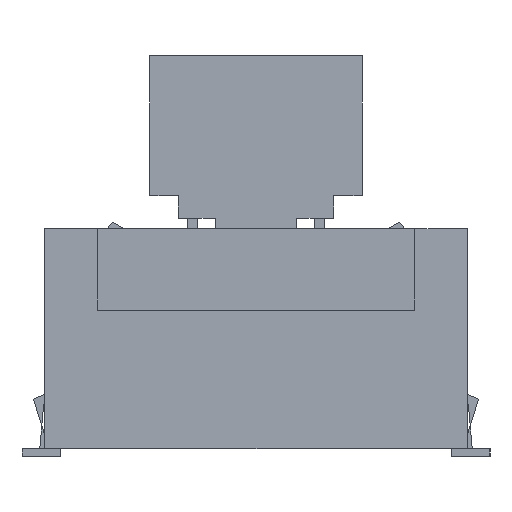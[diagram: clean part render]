
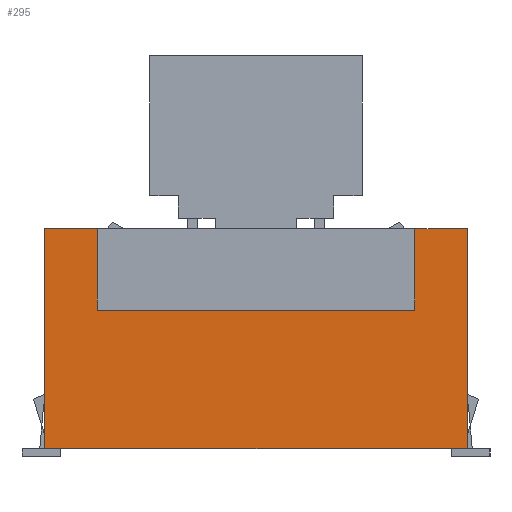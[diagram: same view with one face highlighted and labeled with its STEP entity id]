
A CAD part, left-side view. The second image highlights one B-rep face of the part: STEP entity #295.
In plain terms, the highlighted planar face has unit normal (-1, 0, 0).
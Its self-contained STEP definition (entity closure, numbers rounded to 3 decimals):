
#179 = EDGE_CURVE('',#180,#182,#184,.T.);
#180 = VERTEX_POINT('',#181);
#181 = CARTESIAN_POINT('',(-4.815,-1.66,0.06));
#182 = VERTEX_POINT('',#183);
#183 = CARTESIAN_POINT('',(-4.815,-1.66,1.79));
#184 = SURFACE_CURVE('',#185,(#189,#201),.PCURVE_S1.);
#185 = LINE('',#186,#187);
#186 = CARTESIAN_POINT('',(-4.815,-1.66,0.06));
#187 = VECTOR('',#188,1.);
#188 = DIRECTION('',(0.,0.,1.));
#189 = PCURVE('',#190,#195);
#190 = PLANE('',#191);
#191 = AXIS2_PLACEMENT_3D('',#192,#193,#194);
#192 = CARTESIAN_POINT('',(-4.815,-1.66,0.06));
#193 = DIRECTION('',(0.,1.,0.));
#194 = DIRECTION('',(1.,0.,0.));
#195 = DEFINITIONAL_REPRESENTATION('',(#196),#200);
#196 = LINE('',#197,#198);
#197 = CARTESIAN_POINT('',(0.,0.));
#198 = VECTOR('',#199,1.);
#199 = DIRECTION('',(0.,-1.));
#200 = ( GEOMETRIC_REPRESENTATION_CONTEXT(2) 
PARAMETRIC_REPRESENTATION_CONTEXT() REPRESENTATION_CONTEXT('2D SPACE',''
  ) );
#201 = PCURVE('',#202,#207);
#202 = PLANE('',#203);
#203 = AXIS2_PLACEMENT_3D('',#204,#205,#206);
#204 = CARTESIAN_POINT('',(-4.815,1.66,0.06));
#205 = DIRECTION('',(1.,0.,-0.));
#206 = DIRECTION('',(0.,-1.,0.));
#207 = DEFINITIONAL_REPRESENTATION('',(#208),#212);
#208 = LINE('',#209,#210);
#209 = CARTESIAN_POINT('',(3.32,0.));
#210 = VECTOR('',#211,1.);
#211 = DIRECTION('',(0.,-1.));
#212 = ( GEOMETRIC_REPRESENTATION_CONTEXT(2) 
PARAMETRIC_REPRESENTATION_CONTEXT() REPRESENTATION_CONTEXT('2D SPACE',''
  ) );
#230 = PLANE('',#231);
#231 = AXIS2_PLACEMENT_3D('',#232,#233,#234);
#232 = CARTESIAN_POINT('',(0.,0.,1.79)
  );
#233 = DIRECTION('',(0.,0.,1.));
#234 = DIRECTION('',(1.,0.,-0.));
#284 = PLANE('',#285);
#285 = AXIS2_PLACEMENT_3D('',#286,#287,#288);
#286 = CARTESIAN_POINT('',(0.,0.,0.06
    ));
#287 = DIRECTION('',(0.,0.,1.));
#288 = DIRECTION('',(1.,0.,-0.));
#295 = ADVANCED_FACE('',(#296),#202,.F.);
#296 = FACE_BOUND('',#297,.F.);
#297 = EDGE_LOOP('',(#298,#321,#349,#372,#400,#428,#456,#477));
#298 = ORIENTED_EDGE('',*,*,#299,.F.);
#299 = EDGE_CURVE('',#300,#180,#302,.T.);
#300 = VERTEX_POINT('',#301);
#301 = CARTESIAN_POINT('',(-4.815,1.66,0.06));
#302 = SURFACE_CURVE('',#303,(#307,#314),.PCURVE_S1.);
#303 = LINE('',#304,#305);
#304 = CARTESIAN_POINT('',(-4.815,1.66,0.06));
#305 = VECTOR('',#306,1.);
#306 = DIRECTION('',(0.,-1.,0.));
#307 = PCURVE('',#202,#308);
#308 = DEFINITIONAL_REPRESENTATION('',(#309),#313);
#309 = LINE('',#310,#311);
#310 = CARTESIAN_POINT('',(0.,0.));
#311 = VECTOR('',#312,1.);
#312 = DIRECTION('',(1.,0.));
#313 = ( GEOMETRIC_REPRESENTATION_CONTEXT(2) 
PARAMETRIC_REPRESENTATION_CONTEXT() REPRESENTATION_CONTEXT('2D SPACE',''
  ) );
#314 = PCURVE('',#284,#315);
#315 = DEFINITIONAL_REPRESENTATION('',(#316),#320);
#316 = LINE('',#317,#318);
#317 = CARTESIAN_POINT('',(-4.815,1.66));
#318 = VECTOR('',#319,1.);
#319 = DIRECTION('',(0.,-1.));
#320 = ( GEOMETRIC_REPRESENTATION_CONTEXT(2) 
PARAMETRIC_REPRESENTATION_CONTEXT() REPRESENTATION_CONTEXT('2D SPACE',''
  ) );
#321 = ORIENTED_EDGE('',*,*,#322,.T.);
#322 = EDGE_CURVE('',#300,#323,#325,.T.);
#323 = VERTEX_POINT('',#324);
#324 = CARTESIAN_POINT('',(-4.815,1.66,1.79));
#325 = SURFACE_CURVE('',#326,(#330,#337),.PCURVE_S1.);
#326 = LINE('',#327,#328);
#327 = CARTESIAN_POINT('',(-4.815,1.66,0.06));
#328 = VECTOR('',#329,1.);
#329 = DIRECTION('',(0.,0.,1.));
#330 = PCURVE('',#202,#331);
#331 = DEFINITIONAL_REPRESENTATION('',(#332),#336);
#332 = LINE('',#333,#334);
#333 = CARTESIAN_POINT('',(0.,0.));
#334 = VECTOR('',#335,1.);
#335 = DIRECTION('',(0.,-1.));
#336 = ( GEOMETRIC_REPRESENTATION_CONTEXT(2) 
PARAMETRIC_REPRESENTATION_CONTEXT() REPRESENTATION_CONTEXT('2D SPACE',''
  ) );
#337 = PCURVE('',#338,#343);
#338 = PLANE('',#339);
#339 = AXIS2_PLACEMENT_3D('',#340,#341,#342);
#340 = CARTESIAN_POINT('',(4.815,1.66,0.06));
#341 = DIRECTION('',(0.,-1.,0.));
#342 = DIRECTION('',(-1.,0.,0.));
#343 = DEFINITIONAL_REPRESENTATION('',(#344),#348);
#344 = LINE('',#345,#346);
#345 = CARTESIAN_POINT('',(9.63,0.));
#346 = VECTOR('',#347,1.);
#347 = DIRECTION('',(0.,-1.));
#348 = ( GEOMETRIC_REPRESENTATION_CONTEXT(2) 
PARAMETRIC_REPRESENTATION_CONTEXT() REPRESENTATION_CONTEXT('2D SPACE',''
  ) );
#349 = ORIENTED_EDGE('',*,*,#350,.T.);
#350 = EDGE_CURVE('',#323,#351,#353,.T.);
#351 = VERTEX_POINT('',#352);
#352 = CARTESIAN_POINT('',(-4.815,1.25,1.79));
#353 = SURFACE_CURVE('',#354,(#358,#365),.PCURVE_S1.);
#354 = LINE('',#355,#356);
#355 = CARTESIAN_POINT('',(-4.815,1.66,1.79));
#356 = VECTOR('',#357,1.);
#357 = DIRECTION('',(0.,-1.,0.));
#358 = PCURVE('',#202,#359);
#359 = DEFINITIONAL_REPRESENTATION('',(#360),#364);
#360 = LINE('',#361,#362);
#361 = CARTESIAN_POINT('',(0.,-1.73));
#362 = VECTOR('',#363,1.);
#363 = DIRECTION('',(1.,0.));
#364 = ( GEOMETRIC_REPRESENTATION_CONTEXT(2) 
PARAMETRIC_REPRESENTATION_CONTEXT() REPRESENTATION_CONTEXT('2D SPACE',''
  ) );
#365 = PCURVE('',#230,#366);
#366 = DEFINITIONAL_REPRESENTATION('',(#367),#371);
#367 = LINE('',#368,#369);
#368 = CARTESIAN_POINT('',(-4.815,1.66));
#369 = VECTOR('',#370,1.);
#370 = DIRECTION('',(0.,-1.));
#371 = ( GEOMETRIC_REPRESENTATION_CONTEXT(2) 
PARAMETRIC_REPRESENTATION_CONTEXT() REPRESENTATION_CONTEXT('2D SPACE',''
  ) );
#372 = ORIENTED_EDGE('',*,*,#373,.F.);
#373 = EDGE_CURVE('',#374,#351,#376,.T.);
#374 = VERTEX_POINT('',#375);
#375 = CARTESIAN_POINT('',(-4.815,1.25,1.15));
#376 = SURFACE_CURVE('',#377,(#381,#388),.PCURVE_S1.);
#377 = LINE('',#378,#379);
#378 = CARTESIAN_POINT('',(-4.815,1.25,1.15));
#379 = VECTOR('',#380,1.);
#380 = DIRECTION('',(0.,0.,1.));
#381 = PCURVE('',#202,#382);
#382 = DEFINITIONAL_REPRESENTATION('',(#383),#387);
#383 = LINE('',#384,#385);
#384 = CARTESIAN_POINT('',(0.41,-1.09));
#385 = VECTOR('',#386,1.);
#386 = DIRECTION('',(0.,-1.));
#387 = ( GEOMETRIC_REPRESENTATION_CONTEXT(2) 
PARAMETRIC_REPRESENTATION_CONTEXT() REPRESENTATION_CONTEXT('2D SPACE',''
  ) );
#388 = PCURVE('',#389,#394);
#389 = PLANE('',#390);
#390 = AXIS2_PLACEMENT_3D('',#391,#392,#393);
#391 = CARTESIAN_POINT('',(-4.815,1.25,1.15));
#392 = DIRECTION('',(0.,1.,0.));
#393 = DIRECTION('',(0.,0.,1.));
#394 = DEFINITIONAL_REPRESENTATION('',(#395),#399);
#395 = LINE('',#396,#397);
#396 = CARTESIAN_POINT('',(0.,0.));
#397 = VECTOR('',#398,1.);
#398 = DIRECTION('',(1.,0.));
#399 = ( GEOMETRIC_REPRESENTATION_CONTEXT(2) 
PARAMETRIC_REPRESENTATION_CONTEXT() REPRESENTATION_CONTEXT('2D SPACE',''
  ) );
#400 = ORIENTED_EDGE('',*,*,#401,.F.);
#401 = EDGE_CURVE('',#402,#374,#404,.T.);
#402 = VERTEX_POINT('',#403);
#403 = CARTESIAN_POINT('',(-4.815,-1.25,1.15));
#404 = SURFACE_CURVE('',#405,(#409,#416),.PCURVE_S1.);
#405 = LINE('',#406,#407);
#406 = CARTESIAN_POINT('',(-4.815,-1.25,1.15));
#407 = VECTOR('',#408,1.);
#408 = DIRECTION('',(0.,1.,0.));
#409 = PCURVE('',#202,#410);
#410 = DEFINITIONAL_REPRESENTATION('',(#411),#415);
#411 = LINE('',#412,#413);
#412 = CARTESIAN_POINT('',(2.91,-1.09));
#413 = VECTOR('',#414,1.);
#414 = DIRECTION('',(-1.,0.));
#415 = ( GEOMETRIC_REPRESENTATION_CONTEXT(2) 
PARAMETRIC_REPRESENTATION_CONTEXT() REPRESENTATION_CONTEXT('2D SPACE',''
  ) );
#416 = PCURVE('',#417,#422);
#417 = PLANE('',#418);
#418 = AXIS2_PLACEMENT_3D('',#419,#420,#421);
#419 = CARTESIAN_POINT('',(-4.815,-1.25,1.15));
#420 = DIRECTION('',(0.,0.,1.));
#421 = DIRECTION('',(1.,0.,0.));
#422 = DEFINITIONAL_REPRESENTATION('',(#423),#427);
#423 = LINE('',#424,#425);
#424 = CARTESIAN_POINT('',(0.,0.));
#425 = VECTOR('',#426,1.);
#426 = DIRECTION('',(0.,1.));
#427 = ( GEOMETRIC_REPRESENTATION_CONTEXT(2) 
PARAMETRIC_REPRESENTATION_CONTEXT() REPRESENTATION_CONTEXT('2D SPACE',''
  ) );
#428 = ORIENTED_EDGE('',*,*,#429,.T.);
#429 = EDGE_CURVE('',#402,#430,#432,.T.);
#430 = VERTEX_POINT('',#431);
#431 = CARTESIAN_POINT('',(-4.815,-1.25,1.79));
#432 = SURFACE_CURVE('',#433,(#437,#444),.PCURVE_S1.);
#433 = LINE('',#434,#435);
#434 = CARTESIAN_POINT('',(-4.815,-1.25,1.15));
#435 = VECTOR('',#436,1.);
#436 = DIRECTION('',(0.,0.,1.));
#437 = PCURVE('',#202,#438);
#438 = DEFINITIONAL_REPRESENTATION('',(#439),#443);
#439 = LINE('',#440,#441);
#440 = CARTESIAN_POINT('',(2.91,-1.09));
#441 = VECTOR('',#442,1.);
#442 = DIRECTION('',(0.,-1.));
#443 = ( GEOMETRIC_REPRESENTATION_CONTEXT(2) 
PARAMETRIC_REPRESENTATION_CONTEXT() REPRESENTATION_CONTEXT('2D SPACE',''
  ) );
#444 = PCURVE('',#445,#450);
#445 = PLANE('',#446);
#446 = AXIS2_PLACEMENT_3D('',#447,#448,#449);
#447 = CARTESIAN_POINT('',(-4.815,-1.25,1.15));
#448 = DIRECTION('',(0.,1.,0.));
#449 = DIRECTION('',(0.,0.,1.));
#450 = DEFINITIONAL_REPRESENTATION('',(#451),#455);
#451 = LINE('',#452,#453);
#452 = CARTESIAN_POINT('',(0.,0.));
#453 = VECTOR('',#454,1.);
#454 = DIRECTION('',(1.,0.));
#455 = ( GEOMETRIC_REPRESENTATION_CONTEXT(2) 
PARAMETRIC_REPRESENTATION_CONTEXT() REPRESENTATION_CONTEXT('2D SPACE',''
  ) );
#456 = ORIENTED_EDGE('',*,*,#457,.T.);
#457 = EDGE_CURVE('',#430,#182,#458,.T.);
#458 = SURFACE_CURVE('',#459,(#463,#470),.PCURVE_S1.);
#459 = LINE('',#460,#461);
#460 = CARTESIAN_POINT('',(-4.815,1.66,1.79));
#461 = VECTOR('',#462,1.);
#462 = DIRECTION('',(0.,-1.,0.));
#463 = PCURVE('',#202,#464);
#464 = DEFINITIONAL_REPRESENTATION('',(#465),#469);
#465 = LINE('',#466,#467);
#466 = CARTESIAN_POINT('',(0.,-1.73));
#467 = VECTOR('',#468,1.);
#468 = DIRECTION('',(1.,0.));
#469 = ( GEOMETRIC_REPRESENTATION_CONTEXT(2) 
PARAMETRIC_REPRESENTATION_CONTEXT() REPRESENTATION_CONTEXT('2D SPACE',''
  ) );
#470 = PCURVE('',#230,#471);
#471 = DEFINITIONAL_REPRESENTATION('',(#472),#476);
#472 = LINE('',#473,#474);
#473 = CARTESIAN_POINT('',(-4.815,1.66));
#474 = VECTOR('',#475,1.);
#475 = DIRECTION('',(0.,-1.));
#476 = ( GEOMETRIC_REPRESENTATION_CONTEXT(2) 
PARAMETRIC_REPRESENTATION_CONTEXT() REPRESENTATION_CONTEXT('2D SPACE',''
  ) );
#477 = ORIENTED_EDGE('',*,*,#179,.F.);
